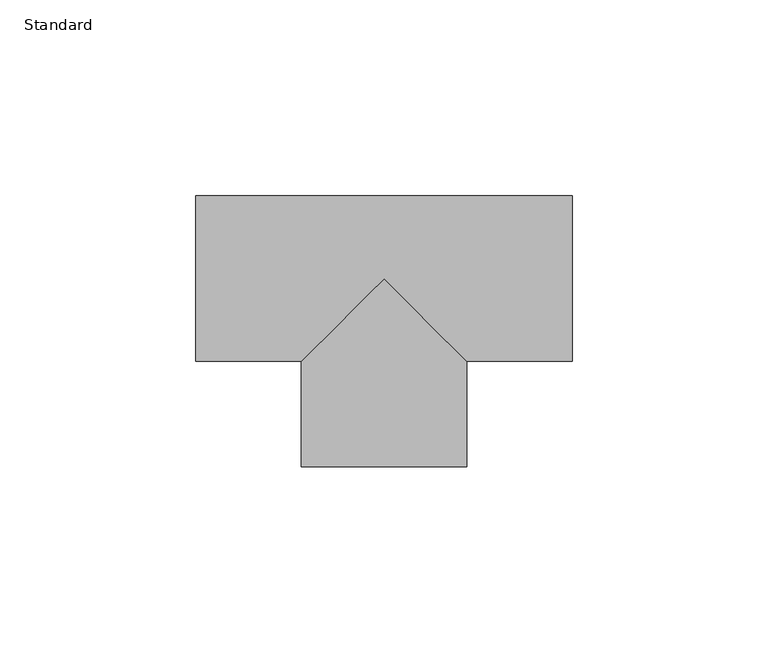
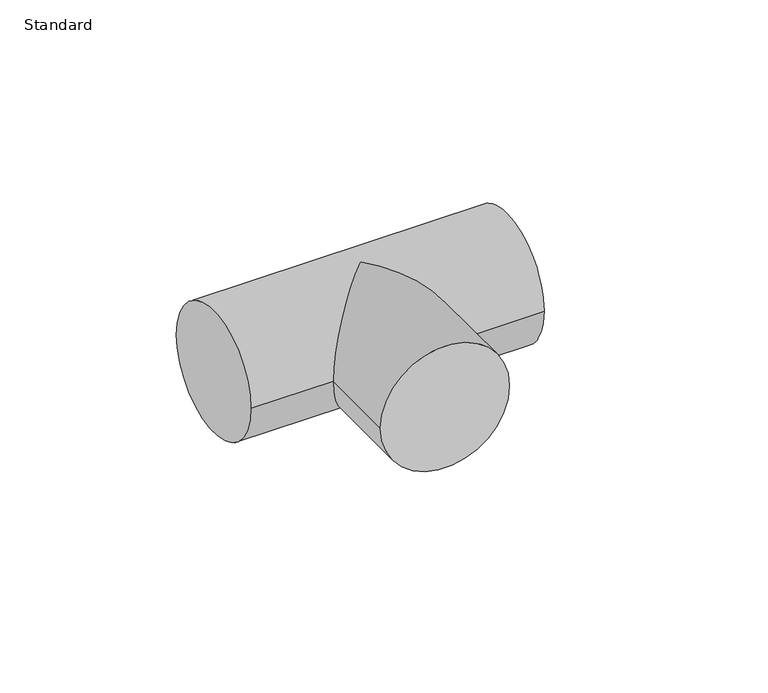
"""IFC4 building model written with IfcOpenShell, lengths in millimetres: pipe fitting geometry, Té - Générique : Standard."""

import ifcopenshell
import ifcopenshell.guid

model = None  # the IFC model being written
_history = None  # IfcOwnerHistory: only IFC2X3 demands one
_inside = {}  # id of a spatial element -> (the spatial element, [elements in it])
_under = {}  # id of a project, library or spatial element -> (it, [spatial elements below it])
_declared = {}  # id of a project -> (the project, [libraries it declares])
_typed = {}  # id of a type object -> (the type object, [elements of that type])
_made_of = {}  # id of a material, layer set ... -> (it, [elements and type objects made of it])


def new_model(schema):
    """Start an empty IFC model of exactly this schema.

    Asked for "IFC4X3", IfcOpenShell would pick the latest addendum, in which some entities
    have other attributes; the version numbers below select the first issue.
    IFC2X3 requires an IfcOwnerHistory on every rooted entity: one is made here for all.
    """
    global model, _history
    if schema == "IFC4X3":
        model = ifcopenshell.file(schema_version=(4, 3, 0, 0))
    else:
        model = ifcopenshell.file(schema=schema)
    _inside.clear()
    _under.clear()
    _declared.clear()
    _typed.clear()
    _made_of.clear()
    _history = None
    if model.schema == "IFC2X3":
        org = make("IfcOrganization", Name="unknown")
        user = make(
            "IfcPersonAndOrganization",
            ThePerson=make("IfcPerson", FamilyName="unknown"),
            TheOrganization=org,
        )
        app = make(
            "IfcApplication",
            ApplicationDeveloper=org,
            Version="unknown",
            ApplicationFullName="unknown",
            ApplicationIdentifier="unknown",
        )
        _history = make(
            "IfcOwnerHistory",
            OwningUser=user,
            OwningApplication=app,
            ChangeAction="ADDED",
            CreationDate=0,
        )
    return model


def make(cls, **values):
    """One entity of the class cls with the attributes given. An attribute that is None is left unset."""
    return model.create_entity(
        cls, **{name: value for name, value in values.items() if value is not None}
    )


def rooted(cls, **values):
    """An entity with a GlobalId (a new one), such as an element, a storey or a relation."""
    return make(cls, GlobalId=ifcopenshell.guid.new(), OwnerHistory=_history, **values)


def si_unit(unit_type, name, prefix=None):
    """IfcSIUnit, for example si_unit("LENGTHUNIT", "METRE", prefix="MILLI")."""
    return make("IfcSIUnit", UnitType=unit_type, Prefix=prefix, Name=name)


def assignment(units):
    """IfcUnitAssignment: the units of a project."""
    return None if units is None else make("IfcUnitAssignment", Units=units)


def point(xyz):
    """IfcCartesianPoint."""
    return None if xyz is None else make("IfcCartesianPoint", Coordinates=xyz)


def direction(xyz):
    """IfcDirection."""
    return None if xyz is None else make("IfcDirection", DirectionRatios=xyz)


def frame(location, z_axis=None, x_axis=None):
    """IfcAxis2Placement3D, a coordinate frame: its origin and axes. An axis left out is left unset."""
    return make(
        "IfcAxis2Placement3D",
        Location=point(location),
        Axis=direction(z_axis),
        RefDirection=direction(x_axis),
    )


def origin():
    """The frame at (0, 0, 0) with its axes left unset."""
    return frame((0.0, 0.0, 0.0))


def place(relative_to, where):
    """IfcLocalPlacement: puts the frame where relative to a parent placement (None: the world)."""
    return make(
        "IfcLocalPlacement", PlacementRelTo=relative_to, RelativePlacement=where
    )


def context(
    kind, dimensions, precision=None, world=None, true_north=None, identifier=None
):
    """IfcGeometricRepresentationContext, for example the 3D "Model" context."""
    return make(
        "IfcGeometricRepresentationContext",
        ContextIdentifier=identifier,
        ContextType=kind,
        CoordinateSpaceDimension=dimensions,
        Precision=precision,
        WorldCoordinateSystem=world,
        TrueNorth=true_north,
    )


def project(units=None, contexts=None):
    """IfcProject with its units and contexts."""
    return rooted(
        "IfcProject",
        Name="project",
        RepresentationContexts=contexts,
        UnitsInContext=assignment(units),
    )


def spatial(cls, under=None, at=None, **own):
    """A site, building, storey or space (cls), placed at a placement, below another one or the project."""
    s = rooted(cls, ObjectPlacement=at, **own)
    if under is not None:
        _under.setdefault(under.id(), (under, []))[1].append(s)
    return s


def circle_curve(where, radius):
    """IfcCircle in the frame where."""
    return make("IfcCircle", Position=where, Radius=radius)


def ellipse_curve(where, semi_axis1, semi_axis2):
    """IfcEllipse in the frame where."""
    return make(
        "IfcEllipse", Position=where, SemiAxis1=semi_axis1, SemiAxis2=semi_axis2
    )


def shape(context_of_items, identifier, shape_type, items):
    """IfcShapeRepresentation: the items that make up one representation, for example the "Body"."""
    return make(
        "IfcShapeRepresentation",
        ContextOfItems=context_of_items,
        RepresentationIdentifier=identifier,
        RepresentationType=shape_type,
        Items=items,
    )


def source(mapping_origin, context_of_items, identifier, shape_type, items):
    """IfcRepresentationMap: a shape defined once, which mapped items show again and again."""
    return make(
        "IfcRepresentationMap",
        MappingOrigin=mapping_origin,
        MappedRepresentation=shape(context_of_items, identifier, shape_type, items),
    )


def transform(
    local_origin,
    x_axis=None,
    y_axis=None,
    z_axis=None,
    scale=None,
    scale2=None,
    scale3=None,
    uniform=True,
):
    """IfcCartesianTransformationOperator3D, or its non-uniform kind. x_axis, y_axis, z_axis: its Axis1, 2, 3."""
    if uniform:
        return make(
            "IfcCartesianTransformationOperator3D",
            Axis1=direction(x_axis),
            Axis2=direction(y_axis),
            LocalOrigin=point(local_origin),
            Scale=scale,
            Axis3=direction(z_axis),
        )
    return make(
        "IfcCartesianTransformationOperator3DnonUniform",
        Axis1=direction(x_axis),
        Axis2=direction(y_axis),
        LocalOrigin=point(local_origin),
        Scale=scale,
        Axis3=direction(z_axis),
        Scale2=scale2,
        Scale3=scale3,
    )


def mapped(mapping_source, mapping_target):
    """IfcMappedItem: shows the shape of a source again, moved by a transform."""
    return make(
        "IfcMappedItem", MappingSource=mapping_source, MappingTarget=mapping_target
    )


def made_of(thing, what):
    """Note that an element or type object is made of a material, layer set ...; save() writes the relation."""
    if what is not None:
        _made_of.setdefault(what.id(), (what, []))[1].append(thing)
    return thing


def element(
    cls,
    number,
    at=None,
    inside=None,
    cuts=None,
    type_object=None,
    material=None,
    context=None,
    identifier="Body",
    shape_type=None,
    held_by="IfcProductDefinitionShape",
    body=None,
    shapes=None,
    **own,
):
    """One element of the class cls, such as IfcWall. Its Tag is "e" and its number.

    at: its placement. inside: the storey or other place that contains it. cuts: it is an
    opening in that element (IfcRelVoidsElement). A single representation is given by context,
    identifier, shape_type and body (its items); several are given by shapes. held_by: the class
    of the entity that holds the representations. save() writes the other relations.
    """
    e = rooted(cls, Tag="e%d" % number, ObjectPlacement=at, **own)
    if body is not None:
        shapes = [shape(context, identifier, shape_type, body)]
    if shapes is not None:
        e.Representation = make(held_by, Representations=shapes)
    if inside is not None:
        _inside.setdefault(inside.id(), (inside, []))[1].append(e)
    if cuts is not None:
        rooted(
            "IfcRelVoidsElement", RelatingBuildingElement=cuts, RelatedOpeningElement=e
        )
    if type_object is not None:
        _typed.setdefault(type_object.id(), (type_object, []))[1].append(e)
    return made_of(e, material)


def aggregate(whole, parts):
    """IfcRelAggregates: a whole, such as a stair, and the parts it consists of."""
    return rooted("IfcRelAggregates", RelatingObject=whole, RelatedObjects=parts)


def save(model, path):
    """Write the relations noted so far, then the file.

    IfcRelAggregates (storeys below a building ...), IfcRelContainedInSpatialStructure (elements
    in a storey), IfcRelDefinesByType, IfcRelAssociatesMaterial and IfcRelDeclares: one each for
    every whole, place, type object, material and project.
    """
    for whole, parts in _under.values():
        aggregate(whole, parts)
    for where, things in _inside.values():
        rooted(
            "IfcRelContainedInSpatialStructure",
            RelatedElements=things,
            RelatingStructure=where,
        )
    for kind, things in _typed.values():
        rooted("IfcRelDefinesByType", RelatedObjects=things, RelatingType=kind)
    for what, things in _made_of.values():
        rooted("IfcRelAssociatesMaterial", RelatedObjects=things, RelatingMaterial=what)
    for by, libraries in _declared.values():
        rooted("IfcRelDeclares", RelatingContext=by, RelatedDefinitions=libraries)
    model.write(path)


def plane_surface(at):
    """IfcPlane: the flat surface through the origin of the frame at, square to its z axis."""
    return make("IfcPlane", Position=at)


def cylinder_surface(at, radius):
    """IfcCylindricalSurface: all points at the distance radius from the z axis of the frame at."""
    return make("IfcCylindricalSurface", Position=at, Radius=radius)


def advanced_brep(points, edges, surfaces, faces):
    """IfcAdvancedBrep: a solid bounded by faces that lie on surfaces and meet in shared edges.

    An edge is (start, end): straight between two places in points (the first is 0);
    or (start, end, curve); or (start, end, curve, False) where it runs against its curve.
    A face is (place in surfaces, loops), or (place, loops, False) where it looks against
    its surface's normal. A loop lists edges by number (the first is 1), with a minus sign
    where the edge is run from its end to its start. The first loop is the outer one.
    """
    corners = [point(p) for p in points]
    vertices = [make("IfcVertexPoint", VertexGeometry=c) for c in corners]
    made = []
    for start, end, *more in edges:
        made.append(
            make(
                "IfcEdgeCurve",
                EdgeStart=vertices[start],
                EdgeEnd=vertices[end],
                EdgeGeometry=more[0] if more else make("IfcPolyline", Points=[corners[start], corners[end]]),
                SameSense=more[1] if len(more) > 1 else True,
            )
        )
    hull = []
    for where, loops, *sense in faces:
        bounds = []
        for j, loop in enumerate(loops):
            ring = [make("IfcOrientedEdge", EdgeElement=made[abs(k) - 1], Orientation=k > 0) for k in loop]
            bounds.append(
                make(
                    "IfcFaceOuterBound" if j == 0 else "IfcFaceBound",
                    Bound=make("IfcEdgeLoop", EdgeList=ring),
                    Orientation=True,
                )
            )
        hull.append(make("IfcAdvancedFace", Bounds=bounds, FaceSurface=surfaces[where], SameSense=sense[0] if sense else True))
    return make("IfcAdvancedBrep", Outer=make("IfcClosedShell", CfsFaces=hull))


def standard_ff5d54bc(model_context):
    return source(origin(), model_context, "Body", "AdvancedBrep", [
        advanced_brep(
        [(-48.0, -21.1, 0.0), (-48.0, 21.1, 0.0), (48.0, -21.1, 0.0), (48.0, 21.1, 0.0), (-21.1, -21.1, 0.0), (0.0, 0.0, 21.1), (21.1, -21.1, 0.0), (0.0, 0.0, -21.1), (-21.1, -48.0, 0.0), (21.1, -48.0, 0.0)],
        [
            (0, 1, circle_curve(frame((-48.0, 0.0, 0.0), z_axis=(-1.0, 0.0, 0.0), x_axis=(0.0, 1.0, 0.0)), 21.1)),
            (1, 0, circle_curve(frame((-48.0, 0.0, 0.0), z_axis=(-1.0, 0.0, 0.0), x_axis=(0.0, 1.0, 0.0)), 21.1)),
            (2, 3, circle_curve(frame((48.0, 0.0, 0.0), z_axis=(1.0, 0.0, 0.0), x_axis=(0.0, 1.0, 0.0)), 21.1)),
            (3, 2, circle_curve(frame((48.0, 0.0, 0.0), z_axis=(1.0, 0.0, 0.0), x_axis=(0.0, 1.0, 0.0)), 21.1)),
            (0, 4),
            (4, 5, ellipse_curve(frame((0.0, 0.0, 0.0), z_axis=(-0.707106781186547, 0.7071067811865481, 0.0), x_axis=(-0.707106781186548, -0.707106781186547, 0.0)), 29.8399062, 21.1)),
            (5, 6, ellipse_curve(frame((0.0, 0.0, 0.0), z_axis=(0.707106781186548, 0.7071067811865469, 0.0), x_axis=(-0.707106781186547, 0.707106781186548, 0.0)), 29.8399062, 21.1)),
            (6, 2),
            (3, 1),
            (6, 7, ellipse_curve(frame((0.0, 0.0, 0.0), z_axis=(0.707106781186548, 0.7071067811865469, 0.0), x_axis=(-0.707106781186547, 0.707106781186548, 0.0)), 29.8399062, 21.1)),
            (7, 4, ellipse_curve(frame((0.0, 0.0, 0.0), z_axis=(-0.707106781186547, 0.7071067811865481, 0.0), x_axis=(-0.707106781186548, -0.707106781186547, 0.0)), 29.8399062, 21.1)),
            (8, 9, circle_curve(frame((0.0, -48.0, 0.0), z_axis=(0.0, -1.0, 0.0), x_axis=(1.0, 0.0, 0.0)), 21.1)),
            (9, 8, circle_curve(frame((0.0, -48.0, 0.0), z_axis=(0.0, -1.0, 0.0), x_axis=(1.0, 0.0, 0.0)), 21.1)),
            (9, 6),
            (4, 8),
        ],
        [
            plane_surface(frame((-48.0, 0.0, 0.0), z_axis=(-1.0, 0.0, 0.0), x_axis=(0.0, 0.0, 1.0))),
            plane_surface(frame((48.0, 0.0, 0.0), z_axis=(1.0, 0.0, 0.0), x_axis=(0.0, 0.0, 1.0))),
            cylinder_surface(frame((-48.0, 0.0, 0.0), z_axis=(-1.0, 0.0, 0.0), x_axis=(0.0, 1.0, 0.0)), 21.1),
            plane_surface(frame((0.0, -48.0, 0.0), z_axis=(0.0, -1.0, 0.0), x_axis=(0.0, 0.0, 1.0))),
            cylinder_surface(frame((0.0, 0.0, 0.0), z_axis=(0.0, 1.0, 0.0), x_axis=(1.0, 0.0, 0.0)), 21.1),
        ],
        [
            (0, [[1, 2]]),
            (1, [[3, 4]]),
            (2, [[-1, 5, 6, 7, 8, -4, 9]]),
            (2, [[-2, -9, -3, -8, 10, 11, -5]]),
            (3, [[12, 13]]),
            (4, [[-13, 14, -7, -6, 15]]),
            (4, [[-12, -15, -11, -10, -14]]),
        ],
    ),
    ])


if __name__ == "__main__":
    model = new_model("IFC4")
    model_context = context("Model", 3, world=origin())
    ifc_project = project(units=[si_unit("LENGTHUNIT", "METRE", prefix="MILLI")], contexts=[model_context])
    site = spatial("IfcSite", under=ifc_project)
    building = spatial("IfcBuilding", under=site)
    placement = place(None, origin())
    standard_shape = standard_ff5d54bc(model_context)
    element("IfcPipeFitting", 1, ObjectType="Té - Générique : Standard", at=placement, inside=building, context=model_context, shape_type="MappedRepresentation", body=[
        mapped(standard_shape, transform((0.0, 0.0, 0.0), x_axis=(1.0, 0.0, 0.0), y_axis=(0.0, 1.0, 0.0), z_axis=(0.0, 0.0, 1.0))),
    ])
    save(model, "model.ifc")
